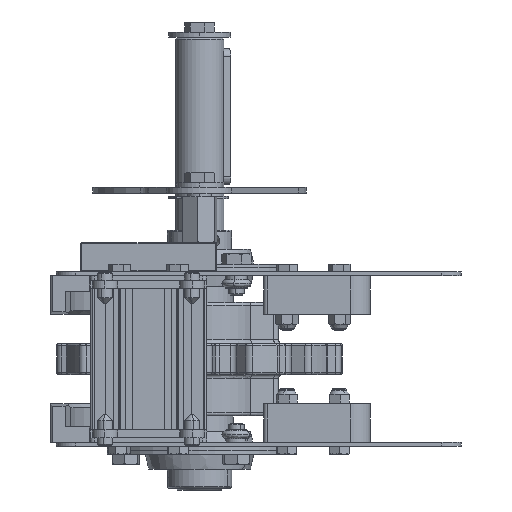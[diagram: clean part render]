
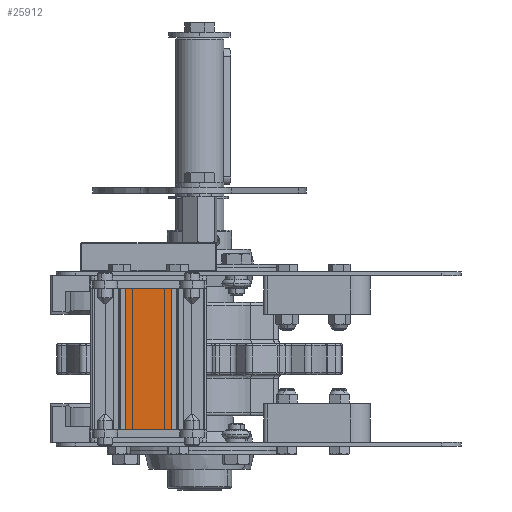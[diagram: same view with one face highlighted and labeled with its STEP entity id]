
A CAD part, left-side view. The second image highlights one B-rep face of the part: STEP entity #25912.
In plain terms, the highlighted planar face has unit normal (-1, 0, 0) as drawn and (0, 0, -1) by its records, which use the part's own axes.
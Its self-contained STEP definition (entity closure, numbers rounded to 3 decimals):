
#464 = VERTEX_POINT ( 'NONE', #33396 ) ;
#498 = LINE ( 'NONE', #13174, #32198 ) ;
#558 = ORIENTED_EDGE ( 'NONE', *, *, #13455, .F. ) ;
#1074 = LINE ( 'NONE', #29545, #14329 ) ;
#1289 = DIRECTION ( 'NONE',  ( 0., 1., 0. ) ) ;
#1293 = CARTESIAN_POINT ( 'NONE',  ( 36.5, -26.85, -15. ) ) ;
#3266 = CARTESIAN_POINT ( 'NONE',  ( 36.5, -3.15, -15. ) ) ;
#4418 = DIRECTION ( 'NONE',  ( 0., -1., 0. ) ) ;
#6879 = ORIENTED_EDGE ( 'NONE', *, *, #21651, .T. ) ;
#9309 = CARTESIAN_POINT ( 'NONE',  ( 36.5, -3.15, -15. ) ) ;
#9573 = FACE_OUTER_BOUND ( 'NONE', #28033, .T. ) ;
#10892 = EDGE_CURVE ( 'NONE', #464, #17150, #34555, .T. ) ;
#12625 = VECTOR ( 'NONE', #37370, 1000. ) ;
#13174 = CARTESIAN_POINT ( 'NONE',  ( 36.5, -26.85, -15. ) ) ;
#13455 = EDGE_CURVE ( 'NONE', #33044, #31428, #1074, .T. ) ;
#14027 = DIRECTION ( 'NONE',  ( 0., 0., 1. ) ) ;
#14329 = VECTOR ( 'NONE', #1289, 1000. ) ;
#16692 = EDGE_CURVE ( 'NONE', #31428, #17150, #24342, .T. ) ;
#17150 = VERTEX_POINT ( 'NONE', #23862 ) ;
#20027 = PLANE ( 'NONE',  #36220 ) ;
#21651 = EDGE_CURVE ( 'NONE', #33044, #464, #498, .T. ) ;
#22372 = ORIENTED_EDGE ( 'NONE', *, *, #16692, .F. ) ;
#23862 = CARTESIAN_POINT ( 'NONE',  ( -36.5, -3.15, -15. ) ) ;
#24342 = LINE ( 'NONE', #9309, #12625 ) ;
#25912 = ADVANCED_FACE ( 'NONE', ( #9573 ), #20027, .F. ) ;
#26345 = CARTESIAN_POINT ( 'NONE',  ( -36.5, -26.85, -15. ) ) ;
#27260 = CARTESIAN_POINT ( 'NONE',  ( 36.5, -26.85, -15. ) ) ;
#28033 = EDGE_LOOP ( 'NONE', ( #29396, #22372, #558, #6879 ) ) ;
#29396 = ORIENTED_EDGE ( 'NONE', *, *, #10892, .T. ) ;
#29545 = CARTESIAN_POINT ( 'NONE',  ( 36.5, -26.85, -15. ) ) ;
#31428 = VERTEX_POINT ( 'NONE', #3266 ) ;
#31681 = DIRECTION ( 'NONE',  ( -1., 0., 0. ) ) ;
#32198 = VECTOR ( 'NONE', #31681, 1000. ) ;
#32972 = DIRECTION ( 'NONE',  ( 0., 1., 0. ) ) ;
#33044 = VERTEX_POINT ( 'NONE', #27260 ) ;
#33396 = CARTESIAN_POINT ( 'NONE',  ( -36.5, -26.85, -15. ) ) ;
#34555 = LINE ( 'NONE', #26345, #39902 ) ;
#36220 = AXIS2_PLACEMENT_3D ( 'NONE', #1293, #14027, #4418 ) ;
#37370 = DIRECTION ( 'NONE',  ( -1., 0., 0. ) ) ;
#39902 = VECTOR ( 'NONE', #32972, 1000. ) ;
